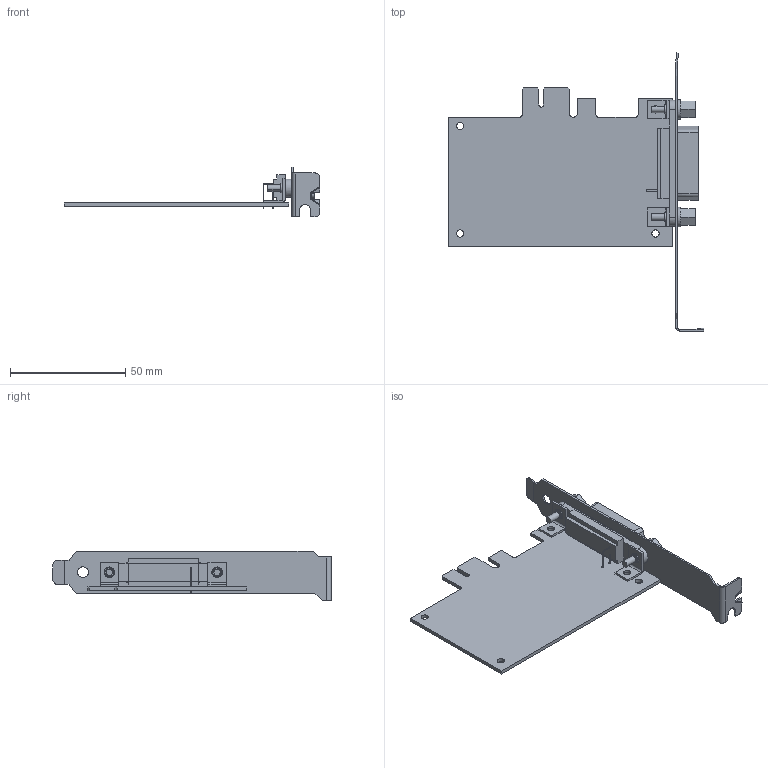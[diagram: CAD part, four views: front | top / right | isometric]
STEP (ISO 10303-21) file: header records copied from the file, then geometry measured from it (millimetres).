
FILE_DESCRIPTION((''),'2;1');
FILE_NAME('CU_PCIE-GPIB_PLUS','2015-12-21T',('dkendric'),(''),'PRO/ENGINEER BY PARAMETRIC TECHNOLOGY CORPORATION, 2015280','PRO/ENGINEER BY PARAMETRIC TECHNOLOGY CORPORATION, 2015280','');
FILE_SCHEMA(('CONFIG_CONTROL_DESIGN'));
Length unit declared in the file: inch
Products named in the file (1): CU_PCIE-GPIB_PLUS
Bounding box: 111.08 x 120.8 x 21.59 mm (x, y, z)
Volume: 16322.4 mm3; surface area: 20866.1 mm2
Topology: 1 solids, 1 shells, 241 faces, 637 edges, 410 vertices
Faces by surface type: plane 157, cylinder 76, bspline 4, torus 4
Entity records: 7595 total; most frequent: CARTESIAN_POINT 1408, DIRECTION 1275, ORIENTED_EDGE 1274, EDGE_CURVE 637, VECTOR 457, LINE 457, VERTEX_POINT 410, AXIS2_PLACEMENT_3D 409
